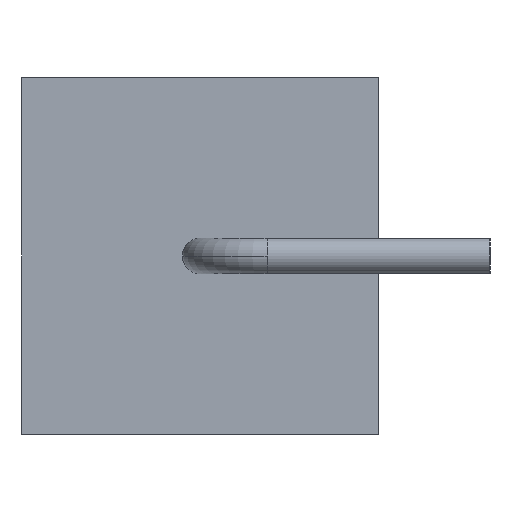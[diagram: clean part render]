
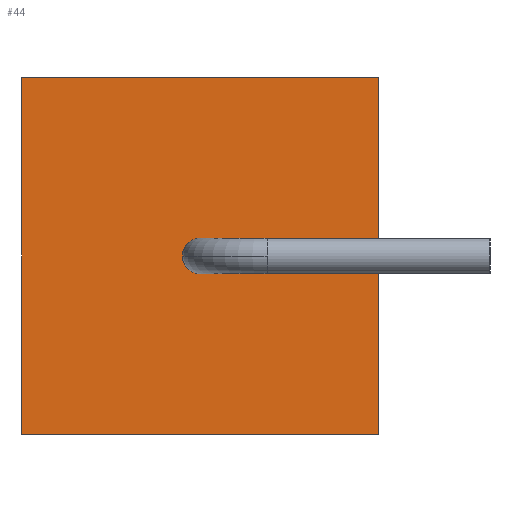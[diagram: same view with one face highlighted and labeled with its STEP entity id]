
A CAD part, left-side view. The second image highlights one B-rep face of the part: STEP entity #44.
In plain terms, the highlighted planar face has unit normal (-1, 0, 0).
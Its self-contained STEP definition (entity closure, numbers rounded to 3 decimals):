
#1 = ORIENTED_EDGE ( 'NONE', *, *, #40, .F. ) ;
#3 = ORIENTED_EDGE ( 'NONE', *, *, #19, .F. ) ;
#7 = ORIENTED_EDGE ( 'NONE', *, *, #339, .F. ) ;
#8 = ORIENTED_EDGE ( 'NONE', *, *, #306, .F. ) ;
#19 = EDGE_CURVE ( 'NONE', #26, #20, #261, .T. ) ;
#20 = VERTEX_POINT ( 'NONE', #211 ) ;
#26 = VERTEX_POINT ( 'NONE', #349 ) ;
#31 = VERTEX_POINT ( 'NONE', #232 ) ;
#40 = EDGE_CURVE ( 'NONE', #340, #31, #222, .T. ) ;
#44 = ADVANCED_FACE ( 'NONE', ( #218, #293 ), #292, .T. ) ;
#45 = EDGE_LOOP ( 'NONE', ( #46, #48 ) ) ;
#46 = ORIENTED_EDGE ( 'NONE', *, *, #47, .F. ) ;
#47 = EDGE_CURVE ( 'NONE', #110, #100, #286, .T. ) ;
#48 = ORIENTED_EDGE ( 'NONE', *, *, #109, .F. ) ;
#49 = EDGE_LOOP ( 'NONE', ( #8, #1, #7, #3 ) ) ;
#100 = VERTEX_POINT ( 'NONE', #484 ) ;
#109 = EDGE_CURVE ( 'NONE', #100, #110, #395, .T. ) ;
#110 = VERTEX_POINT ( 'NONE', #390 ) ;
#195 = DIRECTION ( 'NONE',  ( 0., 0., 1. ) ) ;
#196 = DIRECTION ( 'NONE',  ( -1., 0., 0. ) ) ;
#197 = AXIS2_PLACEMENT_3D ( 'NONE', #290, #196, #195 ) ;
#211 = CARTESIAN_POINT ( 'NONE',  ( 0., 0., -8. ) ) ;
#212 = DIRECTION ( 'NONE',  ( 0., 0., -1. ) ) ;
#213 = VECTOR ( 'NONE', #212, 1000. ) ;
#218 = FACE_BOUND ( 'NONE', #45, .T. ) ;
#219 = DIRECTION ( 'NONE',  ( 0., 0., 1. ) ) ;
#220 = VECTOR ( 'NONE', #219, 1000. ) ;
#221 = CARTESIAN_POINT ( 'NONE',  ( 0., 8., 0. ) ) ;
#222 = LINE ( 'NONE', #221, #220 ) ;
#232 = CARTESIAN_POINT ( 'NONE',  ( 0., 8., 0. ) ) ;
#260 = CARTESIAN_POINT ( 'NONE',  ( 0., 0., 0. ) ) ;
#261 = LINE ( 'NONE', #260, #213 ) ;
#286 = CIRCLE ( 'NONE', #197, 0.4 ) ;
#287 = DIRECTION ( 'NONE',  ( 0., 0., 1. ) ) ;
#288 = DIRECTION ( 'NONE',  ( -1., 0., 0. ) ) ;
#289 = CARTESIAN_POINT ( 'NONE',  ( 0., 8., 0. ) ) ;
#290 = CARTESIAN_POINT ( 'NONE',  ( 0., 4., -4. ) ) ;
#291 = AXIS2_PLACEMENT_3D ( 'NONE', #289, #288, #287 ) ;
#292 = PLANE ( 'NONE',  #291 ) ;
#293 = FACE_OUTER_BOUND ( 'NONE', #49, .T. ) ;
#306 = EDGE_CURVE ( 'NONE', #31, #26, #754, .T. ) ;
#339 = EDGE_CURVE ( 'NONE', #20, #340, #692, .T. ) ;
#340 = VERTEX_POINT ( 'NONE', #688 ) ;
#349 = CARTESIAN_POINT ( 'NONE',  ( 0., 0., 0. ) ) ;
#390 = CARTESIAN_POINT ( 'NONE',  ( 0., 4., -4.4 ) ) ;
#391 = DIRECTION ( 'NONE',  ( 0., 0., 1. ) ) ;
#392 = DIRECTION ( 'NONE',  ( -1., 0., 0. ) ) ;
#393 = CARTESIAN_POINT ( 'NONE',  ( 0., 4., -4. ) ) ;
#394 = AXIS2_PLACEMENT_3D ( 'NONE', #393, #392, #391 ) ;
#395 = CIRCLE ( 'NONE', #394, 0.4 ) ;
#484 = CARTESIAN_POINT ( 'NONE',  ( 0., 4., -3.6 ) ) ;
#688 = CARTESIAN_POINT ( 'NONE',  ( 0., 8., -8. ) ) ;
#689 = DIRECTION ( 'NONE',  ( 0., 1., 0. ) ) ;
#690 = VECTOR ( 'NONE', #689, 1000. ) ;
#691 = CARTESIAN_POINT ( 'NONE',  ( 0., 0., -8. ) ) ;
#692 = LINE ( 'NONE', #691, #690 ) ;
#751 = DIRECTION ( 'NONE',  ( 0., -1., 0. ) ) ;
#752 = VECTOR ( 'NONE', #751, 1000. ) ;
#753 = CARTESIAN_POINT ( 'NONE',  ( 0., 0., 0. ) ) ;
#754 = LINE ( 'NONE', #753, #752 ) ;
